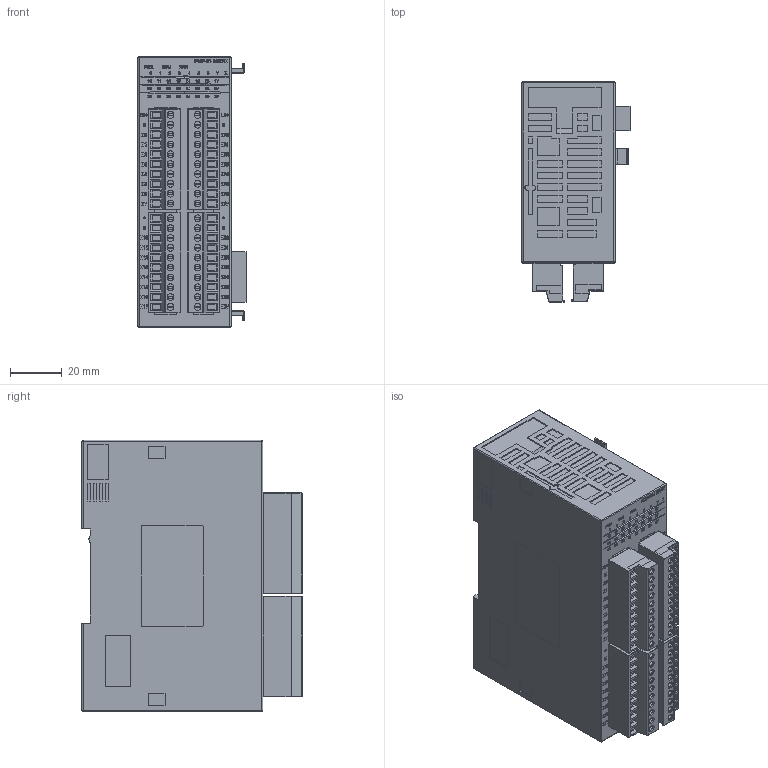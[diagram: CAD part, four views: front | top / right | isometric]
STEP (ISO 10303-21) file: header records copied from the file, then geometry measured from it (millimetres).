
FILE_DESCRIPTION(('STEP AP242'), '1');
FILE_NAME('PMP-01-E32PX', '2025-08-18T11:59:20', ('PROMPOWER'), (''), 'C3D Converter', 'C3D Toolkit', '');
FILE_SCHEMA(('AP242_MANAGED_MODEL_BASED_3D_ENGINEERING_MIM_LF { 1 0 10303 442 1 1 4 }'));
Length unit declared in the file: millimetre
Products named in the file (1): PMP-01-E32PX
Bounding box: 41.8 x 85.17 x 105 mm (x, y, z)
Surface area: 43535.5 mm2
Topology: 12 solids, 179 shells, 2770 faces, 29154 edges, 26706 vertices
Faces by surface type: plane 1966, bspline 370, cylinder 326, extrusion 108
Full cylindrical faces by diameter (mm): 2.6 x40, 2.85 x36
Entity records: 329056 total; most frequent: CARTESIAN_POINT 154128, ORIENTED_EDGE 35614, EDGE_CURVE 29042, VERTEX_POINT 26788, B_SPLINE_CURVE_WITH_KNOTS 23594, DIRECTION 11071, VECTOR 4787, LINE 4679
